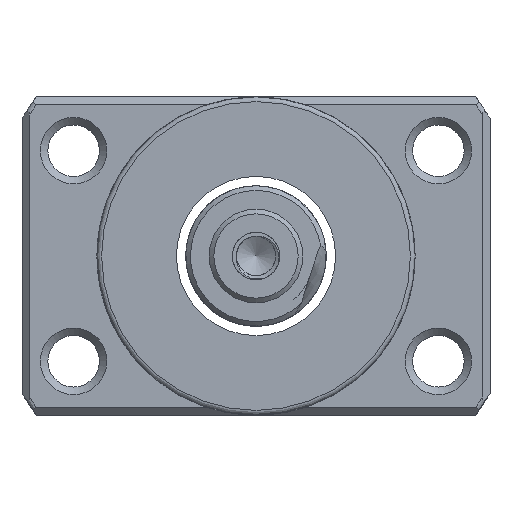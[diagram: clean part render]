
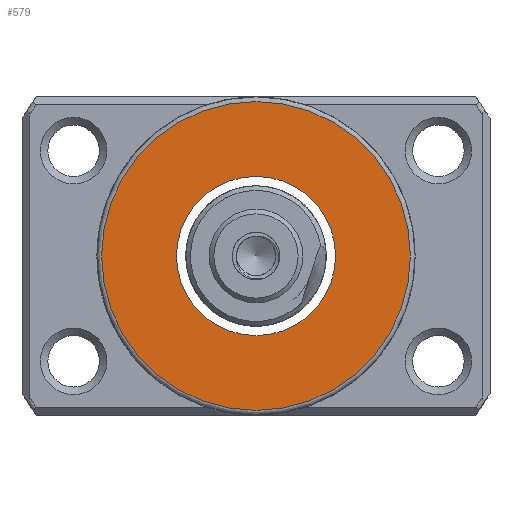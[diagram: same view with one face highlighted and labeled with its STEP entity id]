
A CAD part, left-side view. The second image highlights one B-rep face of the part: STEP entity #579.
In plain terms, the highlighted planar face has unit normal (-1, 0, 0).
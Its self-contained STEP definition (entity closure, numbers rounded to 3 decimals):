
#394 = CARTESIAN_POINT ( 'NONE',  ( -53.324, 8.5, 0. ) ) ;
#579 = ADVANCED_FACE ( 'NONE', ( #4951, #12914 ), #613, .T. ) ;
#613 = PLANE ( 'NONE',  #10229 ) ;
#1041 = EDGE_CURVE ( 'NONE', #4228, #4228, #9533, .T. ) ;
#2833 = EDGE_LOOP ( 'NONE', ( #5682 ) ) ;
#3275 = DIRECTION ( 'NONE',  ( -1., 0., 0. ) ) ;
#3645 = AXIS2_PLACEMENT_3D ( 'NONE', #9809, #13274, #14317 ) ;
#3903 = EDGE_CURVE ( 'NONE', #7400, #7400, #5755, .T. ) ;
#4228 = VERTEX_POINT ( 'NONE', #14342 ) ;
#4951 = FACE_OUTER_BOUND ( 'NONE', #2833, .T. ) ;
#5092 = DIRECTION ( 'NONE',  ( -1., 0., 0. ) ) ;
#5682 = ORIENTED_EDGE ( 'NONE', *, *, #3903, .T. ) ;
#5755 = CIRCLE ( 'NONE', #6948, 16.5 ) ;
#6533 = ORIENTED_EDGE ( 'NONE', *, *, #1041, .F. ) ;
#6948 = AXIS2_PLACEMENT_3D ( 'NONE', #11171, #3275, #8811 ) ;
#7400 = VERTEX_POINT ( 'NONE', #11909 ) ;
#8811 = DIRECTION ( 'NONE',  ( 0., 0., 1. ) ) ;
#9457 = DIRECTION ( 'NONE',  ( 0., 0., 1. ) ) ;
#9533 = CIRCLE ( 'NONE', #3645, 8.5 ) ;
#9809 = CARTESIAN_POINT ( 'NONE',  ( -53.324, 0., 0. ) ) ;
#10229 = AXIS2_PLACEMENT_3D ( 'NONE', #394, #5092, #9457 ) ;
#11171 = CARTESIAN_POINT ( 'NONE',  ( -53.324, 0., 0. ) ) ;
#11233 = EDGE_LOOP ( 'NONE', ( #6533 ) ) ;
#11909 = CARTESIAN_POINT ( 'NONE',  ( -53.324, 0., 16.5 ) ) ;
#12914 = FACE_BOUND ( 'NONE', #11233, .T. ) ;
#13274 = DIRECTION ( 'NONE',  ( -1., 0., 0. ) ) ;
#14317 = DIRECTION ( 'NONE',  ( 0., 0., 1. ) ) ;
#14342 = CARTESIAN_POINT ( 'NONE',  ( -53.324, 0., 8.5 ) ) ;
